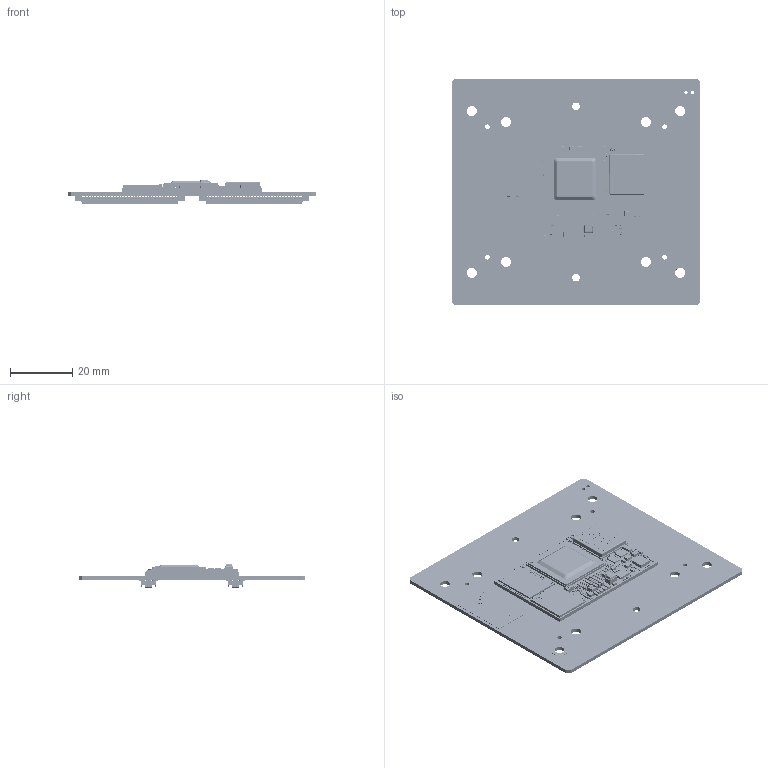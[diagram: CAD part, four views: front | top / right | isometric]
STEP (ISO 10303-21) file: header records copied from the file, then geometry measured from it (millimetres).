
FILE_DESCRIPTION (( 'STEP AP203' ), '1' );
FILE_NAME ('940-00127.STEP', '2026-07-27T03:11:50', ( '' ), ( '' ), 'SwSTEP 2.0', 'SolidWorks 2025', '' );
FILE_SCHEMA (( 'CONFIG_CONTROL_DESIGN' ));
Products named in the file (1): 940-00127
Bounding box: 80 x 73 x 7.69 mm (x, y, z)
Surface area: 26964.7 mm2 (no closed solid volume)
Topology: 0 solids, 3685 shells, 47329 faces, 118630 edges, 76679 vertices
Faces by surface type: plane 39825, cylinder 4176, sphere 2250, bspline 1068, cone 10
Entity records: 1405392 total; most frequent: CARTESIAN_POINT 306873, ORIENTED_EDGE 230849, DIRECTION 210656, EDGE_CURVE 115495, VECTOR 102294, LINE 102294, VERTEX_POINT 75790, AXIS2_PLACEMENT_3D 54181
